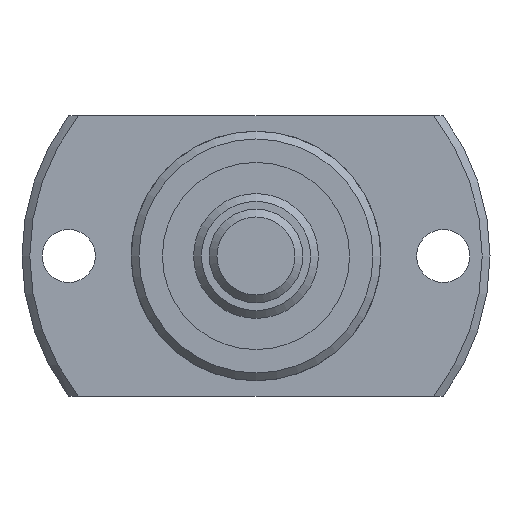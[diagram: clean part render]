
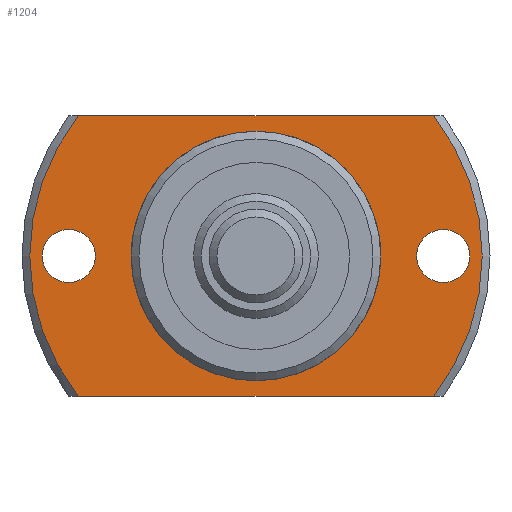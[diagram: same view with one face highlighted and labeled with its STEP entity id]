
A CAD part, left-side view. The second image highlights one B-rep face of the part: STEP entity #1204.
In plain terms, the highlighted planar face has unit normal (-1, 0, 0).
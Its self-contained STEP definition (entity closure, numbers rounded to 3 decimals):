
#127=CIRCLE('',#1339,7.8);
#130=CIRCLE('',#1343,14.5);
#136=CIRCLE('',#1354,1.7);
#137=CIRCLE('',#1355,1.7);
#138=CIRCLE('',#1356,14.5);
#286=ORIENTED_EDGE('',*,*,#565,.T.);
#287=ORIENTED_EDGE('',*,*,#566,.T.);
#288=ORIENTED_EDGE('',*,*,#554,.F.);
#289=ORIENTED_EDGE('',*,*,#567,.T.);
#290=ORIENTED_EDGE('',*,*,#568,.F.);
#291=ORIENTED_EDGE('',*,*,#569,.T.);
#292=ORIENTED_EDGE('',*,*,#548,.T.);
#548=EDGE_CURVE('',#700,#700,#127,.T.);
#554=EDGE_CURVE('',#705,#706,#130,.T.);
#565=EDGE_CURVE('',#715,#715,#136,.T.);
#566=EDGE_CURVE('',#716,#716,#137,.T.);
#567=EDGE_CURVE('',#705,#717,#790,.T.);
#568=EDGE_CURVE('',#718,#717,#138,.T.);
#569=EDGE_CURVE('',#718,#706,#791,.T.);
#700=VERTEX_POINT('',#1978);
#705=VERTEX_POINT('',#1992);
#706=VERTEX_POINT('',#1994);
#715=VERTEX_POINT('',#2028);
#716=VERTEX_POINT('',#2030);
#717=VERTEX_POINT('',#2032);
#718=VERTEX_POINT('',#2034);
#790=LINE('',#2031,#850);
#791=LINE('',#2035,#851);
#850=VECTOR('',#1623,1000.);
#851=VECTOR('',#1626,1000.);
#944=EDGE_LOOP('',(#286));
#945=EDGE_LOOP('',(#287));
#946=EDGE_LOOP('',(#288,#289,#290,#291));
#947=EDGE_LOOP('',(#292));
#1066=FACE_BOUND('',#944,.T.);
#1067=FACE_BOUND('',#945,.T.);
#1068=FACE_BOUND('',#946,.T.);
#1069=FACE_BOUND('',#947,.T.);
#1145=PLANE('',#1353);
#1204=ADVANCED_FACE('',(#1066,#1067,#1068,#1069),#1145,.F.);
#1339=AXIS2_PLACEMENT_3D('',#1977,#1585,#1586);
#1343=AXIS2_PLACEMENT_3D('',#1993,#1595,#1596);
#1353=AXIS2_PLACEMENT_3D('',#2026,#1617,#1618);
#1354=AXIS2_PLACEMENT_3D('',#2027,#1619,#1620);
#1355=AXIS2_PLACEMENT_3D('',#2029,#1621,#1622);
#1356=AXIS2_PLACEMENT_3D('',#2033,#1624,#1625);
#1585=DIRECTION('',(1.,0.,0.));
#1586=DIRECTION('',(0.,0.,-1.));
#1595=DIRECTION('',(1.,0.,0.));
#1596=DIRECTION('',(0.,0.,-1.));
#1617=DIRECTION('',(1.,0.,0.));
#1618=DIRECTION('',(0.,0.,-1.));
#1619=DIRECTION('',(1.,0.,0.));
#1620=DIRECTION('',(0.,0.,-1.));
#1621=DIRECTION('',(1.,0.,0.));
#1622=DIRECTION('',(0.,0.,-1.));
#1623=DIRECTION('',(0.,-1.,0.));
#1624=DIRECTION('',(1.,0.,0.));
#1625=DIRECTION('',(0.,0.,-1.));
#1626=DIRECTION('',(0.,1.,0.));
#1977=CARTESIAN_POINT('',(13.,0.,0.));
#1978=CARTESIAN_POINT('',(13.,0.,-7.8));
#1992=CARTESIAN_POINT('',(13.,11.369,-9.));
#1993=CARTESIAN_POINT('',(13.,0.,0.));
#1994=CARTESIAN_POINT('',(13.,11.369,9.));
#2026=CARTESIAN_POINT('',(13.,7.8,0.));
#2027=CARTESIAN_POINT('',(13.,-12.,0.));
#2028=CARTESIAN_POINT('',(13.,-12.,-1.7));
#2029=CARTESIAN_POINT('',(13.,12.,0.));
#2030=CARTESIAN_POINT('',(13.,12.,-1.7));
#2031=CARTESIAN_POINT('',(13.,7.8,-9.));
#2032=CARTESIAN_POINT('',(13.,-11.369,-9.));
#2033=CARTESIAN_POINT('',(13.,0.,0.));
#2034=CARTESIAN_POINT('',(13.,-11.369,9.));
#2035=CARTESIAN_POINT('',(13.,7.8,9.));
